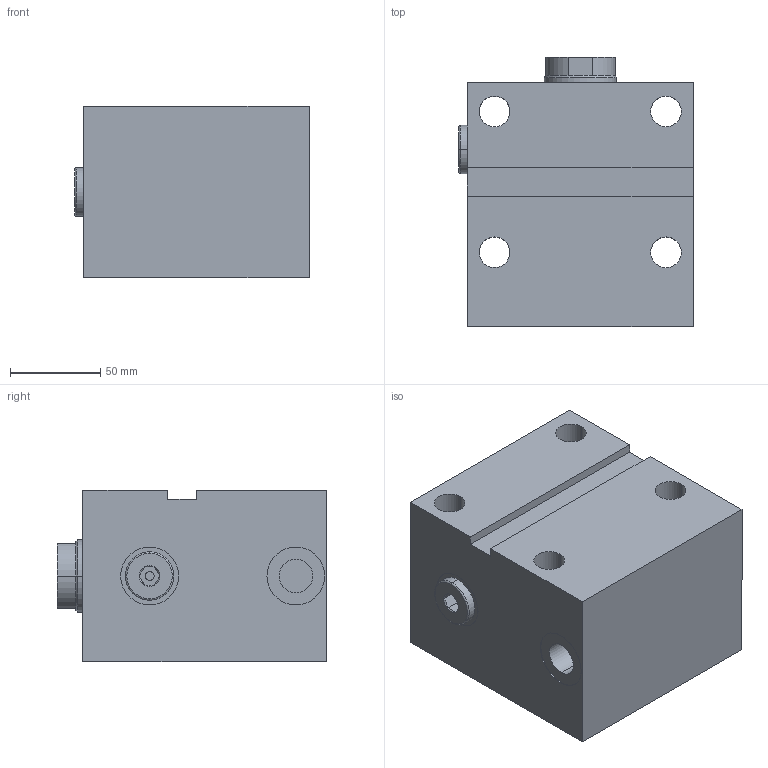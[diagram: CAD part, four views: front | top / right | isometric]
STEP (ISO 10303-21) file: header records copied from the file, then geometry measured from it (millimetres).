
FILE_DESCRIPTION (( 'STEP AP203' ), '1' );
FILE_NAME ('GERMA_Blockzylinder_651-063-025.STEP', '2023-08-26T17:07:53', ( '' ), ( '' ), 'SwSTEP 2.0', 'SolidWorks 2016', '' );
FILE_SCHEMA (( 'CONFIG_CONTROL_DESIGN' ));
Length unit declared in the file: millimetre
Products named in the file (3): GH-600-063-ew_GH-651-063-025; Kolben 60x-063_Kolben DU.63-Hub63-IG; GERMA_Blockzylinder_651-063-025
Assembly tree (2 placements, depth 2):
  GERMA_Blockzylinder_651-063-025
    GH-600-063-ew_GH-651-063-025
    Kolben 60x-063_Kolben DU.63-Hub63-IG
Bounding box: 129.8 x 149 x 95 mm (x, y, z)
Volume: 1443456 mm3; surface area: 156929.1 mm2
Topology: 2 solids, 2 shells, 99 faces, 227 edges, 142 vertices
Faces by surface type: cylinder 41, plane 35, cone 21, torus 2
Entity records: 3149 total; most frequent: CARTESIAN_POINT 538, DIRECTION 526, ORIENTED_EDGE 442, EDGE_CURVE 221, AXIS2_PLACEMENT_3D 208, VERTEX_POINT 142, EDGE_LOOP 123, VECTOR 110
